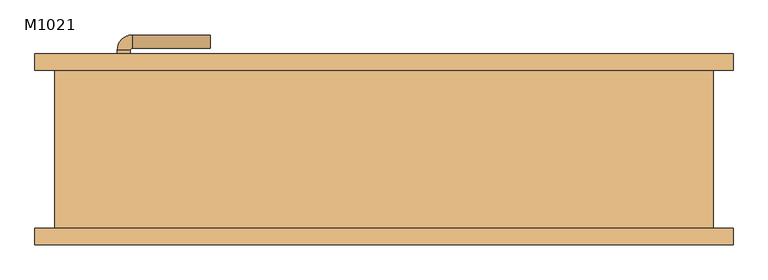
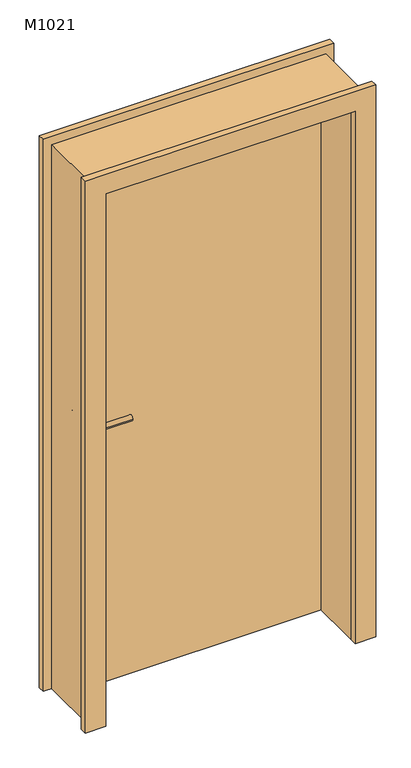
"""IFC4 building model written with IfcOpenShell, lengths in millimetres: door geometry, 单嵌板木门 1 : M1021."""

from ifc_helpers import new_model, si_unit, point, frame, frame_2d, origin, origin_with_axes, place, context, project, spatial, polyline, circle_curve, ellipse_curve, trimmed, segment, composite_curve, outline, extrude, source, transform, mapped, element, save
from ifc_brep_helpers import plane_surface, cylinder_surface, revolved_surface, advanced_brep


def m1021_ed8d65da(model_context):
    return source(origin(), model_context, "Body", "SolidModel", [
        extrude(outline(composite_curve([segment(trimmed(circle_curve(frame_2d((900.0, -395.0)), 25.0), [point((900.0, -370.0))], [point((900.0, -420.0))], False, "CARTESIAN"), True, "CONTINUOUS"), segment(trimmed(circle_curve(frame_2d((900.0, -395.0)), 25.0), [point((900.0, -420.0))], [point((900.0, -370.0))], False, "CARTESIAN"), True, "CONTINUOUS")], self_intersect=False)), frame((0.0, 60.0, 0.0), z_axis=(0.0, 1.0, 0.0), x_axis=(0.0, 0.0, 1.0)), (0.0, 0.0, 1.0), 10.0),
        extrude(outline(composite_curve([segment(trimmed(circle_curve(frame_2d((900.0, -395.0)), 25.0), [point((900.0, -370.0))], [point((900.0, -420.0))], False, "CARTESIAN"), True, "CONTINUOUS"), segment(trimmed(circle_curve(frame_2d((900.0, -395.0)), 25.0), [point((900.0, -420.0))], [point((900.0, -370.0))], False, "CARTESIAN"), True, "CONTINUOUS")], self_intersect=False)), frame((0.0, 120.0, 0.0), z_axis=(0.0, 1.0, 0.0), x_axis=(0.0, 0.0, 1.0)), (0.0, 0.0, 1.0), 10.0),
        advanced_brep(
        [(-405.0, 60.0, 1020.0), (-385.0, 60.0, 1020.0), (-385.0, 39.386645, 1020.0), (-405.0, 39.386645, 1020.0), (-263.419036, 16.419036, 1020.0), (-263.419036, 36.419036, 1020.0), (-382.0323911, 36.419036, 1020.0), (-382.0323911, 16.419036, 1020.0)],
        [
            (0, 1, circle_curve(frame((-395.0, 60.0, 1020.0), z_axis=(0.0, 1.0, 0.0), x_axis=(1.0, 0.0, 0.0)), 10.0)),
            (1, 0, circle_curve(frame((-395.0, 60.0, 1020.0), z_axis=(0.0, 1.0, 0.0), x_axis=(1.0, 0.0, 0.0)), 10.0)),
            (1, 2),
            (2, 3, circle_curve(frame((-395.0, 39.386645, 1020.0), z_axis=(0.0, 1.0, 0.0), x_axis=(1.0, 0.0, 0.0)), 10.0)),
            (3, 0),
            (3, 2, circle_curve(frame((-395.0, 39.386645, 1020.0), z_axis=(0.0, 1.0, 0.0), x_axis=(1.0, 0.0, 0.0)), 10.0)),
            (4, 5, circle_curve(frame((-263.419036, 26.419036, 1020.0), z_axis=(1.0, 0.0, 0.0), x_axis=(0.0, 1.0, 0.0)), 10.0)),
            (5, 4, circle_curve(frame((-263.419036, 26.419036, 1020.0), z_axis=(1.0, 0.0, 0.0), x_axis=(0.0, 1.0, 0.0)), 10.0)),
            (6, 2, circle_curve(frame((-382.0323911, 39.386645, 1020.0), z_axis=(0.0, 0.0, -1.0), x_axis=(-1.0, 0.0, 0.0)), 2.9676089)),
            (3, 7, circle_curve(frame((-382.0323911, 39.386645, 1020.0), z_axis=(0.0, 0.0, 1.0), x_axis=(-1.0, 0.0, 0.0)), 22.9676089)),
            (7, 6, circle_curve(frame((-382.0323911, 26.419036, 1020.0), z_axis=(-1.0, 0.0, 0.0), x_axis=(0.0, 1.0, 0.0)), 10.0)),
            (6, 7, circle_curve(frame((-382.0323911, 26.419036, 1020.0), z_axis=(-1.0, 0.0, 0.0), x_axis=(0.0, 1.0, 0.0)), 10.0)),
            (7, 4),
            (5, 6),
        ],
        [
            plane_surface(frame((-395.0, 60.0, 900.0), z_axis=(0.0, 1.0, 0.0), x_axis=(0.0, 0.0, 1.0))),
            cylinder_surface(frame((-395.0, 60.0, 1020.0), z_axis=(0.0, 1.0, 0.0), x_axis=(1.0, 0.0, 0.0)), 10.0),
            plane_surface(frame((-263.419036, 26.419036, 900.0), z_axis=(1.0, 0.0, 0.0), x_axis=(0.0, 0.0, 1.0))),
            revolved_surface(trimmed(ellipse_curve(frame((-395.0, 39.386645, 1020.0), z_axis=(0.0, 1.0, 0.0), x_axis=(1.0, 0.0, 0.0)), 10.0, 10.0), [point((-405.0, 39.386645, 1020.0))], [point((-385.0, 39.386645, 1020.0))], True, "CARTESIAN"), (-382.0323911, 39.386645, 900.0), (0.0, 0.0, 1.0)),
            revolved_surface(trimmed(ellipse_curve(frame((-395.0, 39.386645, 1020.0), z_axis=(0.0, 1.0, 0.0), x_axis=(1.0, 0.0, 0.0)), 10.0, 10.0), [point((-385.0, 39.386645, 1020.0))], [point((-405.0, 39.386645, 1020.0))], True, "CARTESIAN"), (-382.0323911, 39.386645, 900.0), (0.0, 0.0, 1.0)),
            cylinder_surface(frame((-382.0323911, 26.419036, 1020.0), z_axis=(-1.0, 0.0, 0.0), x_axis=(0.0, 1.0, 0.0)), 10.0),
        ],
        [
            (0, [[1, 2]]),
            (1, [[-2, 3, 4, 5]]),
            (1, [[-1, -5, 6, -3]]),
            (2, [[7, 8]]),
            (3, [[9, -6, 10, 11]]),
            (4, [[-10, -4, -9, 12]]),
            (5, [[-11, 13, -8, 14]]),
            (5, [[-12, -14, -7, -13]]),
        ],
    ),
        extrude(outline(composite_curve([segment(trimmed(circle_curve(frame_2d((1020.0, -395.0)), 25.0), [point((1020.0, -370.0))], [point((1020.0, -420.0))], False, "CARTESIAN"), True, "CONTINUOUS"), segment(trimmed(circle_curve(frame_2d((1020.0, -395.0)), 25.0), [point((1020.0, -420.0))], [point((1020.0, -370.0))], False, "CARTESIAN"), True, "CONTINUOUS")], self_intersect=False)), frame((0.0, 60.0, 0.0), z_axis=(0.0, 1.0, 0.0), x_axis=(0.0, 0.0, 1.0)), (0.0, 0.0, 1.0), 10.0),
        advanced_brep(
        [(-385.0, 130.0, 1020.0), (-405.0, 130.0, 1020.0), (-385.0, 150.6133551, 1020.0), (-405.0, 150.6133551, 1020.0), (-263.419036, 153.580964, 1020.0), (-263.419036, 173.580964, 1020.0), (-382.0323911, 173.580964, 1020.0), (-382.0323911, 153.580964, 1020.0)],
        [
            (0, 1, circle_curve(frame((-395.0, 130.0, 1020.0), z_axis=(0.0, -1.0, 0.0), x_axis=(-1.0, 0.0, 0.0)), 10.0)),
            (1, 0, circle_curve(frame((-395.0, 130.0, 1020.0), z_axis=(0.0, -1.0, 0.0), x_axis=(-1.0, 0.0, 0.0)), 10.0)),
            (0, 2),
            (2, 3, circle_curve(frame((-395.0, 150.6133551, 1020.0), z_axis=(0.0, -1.0, 0.0), x_axis=(-1.0, 0.0, 0.0)), 10.0)),
            (3, 1),
            (3, 2, circle_curve(frame((-395.0, 150.6133551, 1020.0), z_axis=(0.0, -1.0, 0.0), x_axis=(-1.0, 0.0, 0.0)), 10.0)),
            (4, 5, circle_curve(frame((-263.419036, 163.580964, 1020.0), z_axis=(1.0, 0.0, 0.0), x_axis=(0.0, 1.0, 0.0)), 10.0)),
            (5, 4, circle_curve(frame((-263.419036, 163.580964, 1020.0), z_axis=(1.0, 0.0, 0.0), x_axis=(0.0, 1.0, 0.0)), 10.0)),
            (6, 3, circle_curve(frame((-382.0323911, 150.6133551, 1020.0), z_axis=(0.0, 0.0, 1.0), x_axis=(-1.0, 0.0, 0.0)), 22.9676089)),
            (2, 7, circle_curve(frame((-382.0323911, 150.6133551, 1020.0), z_axis=(0.0, 0.0, -1.0), x_axis=(-1.0, 0.0, 0.0)), 2.9676089)),
            (7, 6, circle_curve(frame((-382.0323911, 163.580964, 1020.0), z_axis=(-1.0, 0.0, 0.0), x_axis=(0.0, 1.0, 0.0)), 10.0)),
            (6, 7, circle_curve(frame((-382.0323911, 163.580964, 1020.0), z_axis=(-1.0, 0.0, 0.0), x_axis=(0.0, 1.0, 0.0)), 10.0)),
            (7, 4),
            (5, 6),
        ],
        [
            plane_surface(frame((-395.0, 130.0, 900.0), z_axis=(0.0, -1.0, 0.0), x_axis=(0.0, 0.0, 1.0))),
            cylinder_surface(frame((-395.0, 130.0, 1020.0), z_axis=(0.0, -1.0, 0.0), x_axis=(-1.0, 0.0, 0.0)), 10.0),
            plane_surface(frame((-263.419036, 163.580964, 900.0), z_axis=(1.0, 0.0, 0.0), x_axis=(0.0, 0.0, 1.0))),
            revolved_surface(trimmed(ellipse_curve(frame((-395.0, 150.6133551, 1020.0), z_axis=(0.0, -1.0, 0.0), x_axis=(-1.0, 0.0, 0.0)), 10.0, 10.0), [point((-385.0, 150.6133551, 1020.0))], [point((-405.0, 150.6133551, 1020.0))], True, "CARTESIAN"), (-382.0323911, 150.6133551, 900.0), (0.0, 0.0, -1.0)),
            revolved_surface(trimmed(ellipse_curve(frame((-395.0, 150.6133551, 1020.0), z_axis=(0.0, -1.0, 0.0), x_axis=(-1.0, 0.0, 0.0)), 10.0, 10.0), [point((-405.0, 150.6133551, 1020.0))], [point((-385.0, 150.6133551, 1020.0))], True, "CARTESIAN"), (-382.0323911, 150.6133551, 900.0), (0.0, 0.0, -1.0)),
            cylinder_surface(frame((-382.0323911, 163.580964, 1020.0), z_axis=(-1.0, 0.0, 0.0), x_axis=(0.0, 1.0, 0.0)), 10.0),
        ],
        [
            (0, [[1, 2]]),
            (1, [[-1, 3, 4, 5]]),
            (1, [[-2, -5, 6, -3]]),
            (2, [[7, 8]]),
            (3, [[9, -4, 10, 11]]),
            (4, [[-10, -6, -9, 12]]),
            (5, [[-11, 13, -8, 14]]),
            (5, [[-12, -14, -7, -13]]),
        ],
    ),
        extrude(outline(composite_curve([segment(trimmed(circle_curve(frame_2d((1020.0, -395.0)), 25.0), [point((1020.0, -370.0))], [point((1020.0, -420.0))], False, "CARTESIAN"), True, "CONTINUOUS"), segment(trimmed(circle_curve(frame_2d((1020.0, -395.0)), 25.0), [point((1020.0, -420.0))], [point((1020.0, -370.0))], False, "CARTESIAN"), True, "CONTINUOUS")], self_intersect=False)), frame((0.0, 120.0, 0.0), z_axis=(0.0, 1.0, 0.0), x_axis=(0.0, 0.0, 1.0)), (0.0, 0.0, 1.0), 10.0),
        extrude(outline(polyline([(0.0, 530.0), (2130.0, 530.0), (2130.0, -530.0), (0.0, -530.0), (0.0, -455.0), (2055.0, -455.0), (2055.0, 455.0), (0.0, 455.0), (0.0, 530.0)])), frame((0.0, 120.0, 0.0), z_axis=(0.0, 1.0, 0.0), x_axis=(0.0, 0.0, 1.0)), (0.0, 0.0, 1.0), 25.0),
        extrude(outline(polyline([(2130.0, 530.0), (2130.0, -530.0), (0.0, -530.0), (0.0, -455.0), (2055.0, -455.0), (2055.0, 455.0), (0.0, 455.0), (0.0, 530.0), (2130.0, 530.0)])), frame((0.0, -145.0, 0.0), z_axis=(0.0, 1.0, 0.0), x_axis=(0.0, 0.0, 1.0)), (0.0, 0.0, 1.0), 25.0),
        extrude(outline(polyline([(455.0, 70.0), (-455.0, 70.0), (-455.0, 120.0), (455.0, 120.0), (455.0, 70.0)])), origin_with_axes(), (0.0, 0.0, 1.0), 2055.0),
        extrude(outline(polyline([(2100.0, -500.0), (0.0, -500.0), (0.0, -455.0), (2055.0, -455.0), (2055.0, 455.0), (0.0, 455.0), (0.0, 500.0), (2100.0, 500.0), (2100.0, -500.0)])), frame((0.0, -120.0, 0.0), z_axis=(0.0, 1.0, 0.0), x_axis=(0.0, 0.0, 1.0)), (0.0, 0.0, 1.0), 240.0),
    ])


if __name__ == "__main__":
    model = new_model("IFC4")
    model_context = context("Model", 3, world=origin())
    ifc_project = project(units=[si_unit("LENGTHUNIT", "METRE", prefix="MILLI")], contexts=[model_context])
    site = spatial("IfcSite", under=ifc_project)
    building = spatial("IfcBuilding", under=site)
    placement = place(None, origin())
    m1021_shape = m1021_ed8d65da(model_context)
    element("IfcDoor", 1, ObjectType="单嵌板木门 1 : M1021", at=placement, inside=building, context=model_context, shape_type="MappedRepresentation", body=[
        mapped(m1021_shape, transform((0.0, 0.0, 0.0), x_axis=(1.0, 0.0, 0.0), y_axis=(0.0, 1.0, 0.0), z_axis=(0.0, 0.0, 1.0))),
    ])
    save(model, "model.ifc")
